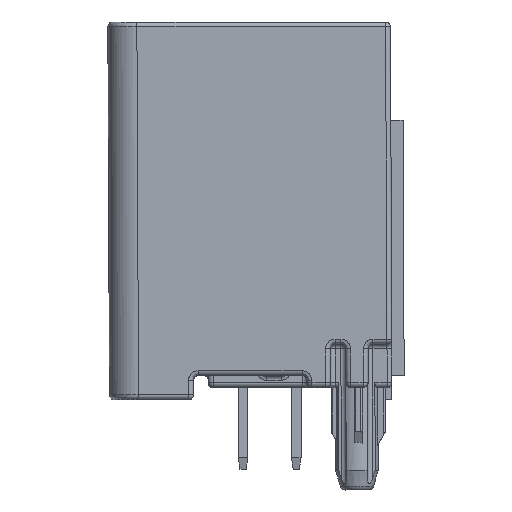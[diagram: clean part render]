
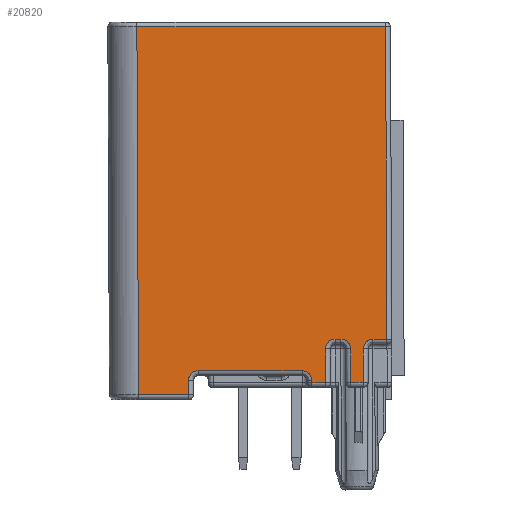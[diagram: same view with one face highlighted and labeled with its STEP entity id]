
A CAD part, left-side view. The second image highlights one B-rep face of the part: STEP entity #20820.
In plain terms, the highlighted planar face has unit normal (-1, 0, -0.004).
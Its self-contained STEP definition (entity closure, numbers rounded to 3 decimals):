
#767=CARTESIAN_POINT('',(-13.256,-4.432,
-3.847));
#768=CARTESIAN_POINT('',(-13.256,-4.433,
-3.803));
#769=CARTESIAN_POINT('',(-13.257,-4.446,
-3.723));
#770=CARTESIAN_POINT('',(-13.257,-4.504,
-3.608));
#771=CARTESIAN_POINT('',(-13.258,-4.593,
-3.519));
#772=CARTESIAN_POINT('',(-13.258,-4.707,
-3.461));
#773=CARTESIAN_POINT('',(-13.258,-4.789,
-3.448));
#774=CARTESIAN_POINT('',(-13.258,-4.832,
-3.448));
#776=CARTESIAN_POINT('',(-13.258,-3.504,
-3.448));
#777=CARTESIAN_POINT('',(-13.258,-3.547,
-3.448));
#778=CARTESIAN_POINT('',(-13.258,-3.63,
-3.461));
#779=CARTESIAN_POINT('',(-13.258,-3.743,
-3.519));
#780=CARTESIAN_POINT('',(-13.257,-3.833,
-3.608));
#781=CARTESIAN_POINT('',(-13.257,-3.891,
-3.723));
#782=CARTESIAN_POINT('',(-13.256,-3.904,
-3.803));
#783=CARTESIAN_POINT('',(-13.256,-3.904,
-3.847));
#785=CARTESIAN_POINT('',(-13.252,-1.906,
-4.748));
#786=CARTESIAN_POINT('',(-13.252,-1.95,
-4.748));
#787=CARTESIAN_POINT('',(-13.252,-2.032,
-4.761));
#788=CARTESIAN_POINT('',(-13.252,-2.145,
-4.819));
#789=CARTESIAN_POINT('',(-13.251,-2.235,
-4.908));
#790=CARTESIAN_POINT('',(-13.251,-2.293,
-5.023));
#791=CARTESIAN_POINT('',(-13.251,-2.306,
-5.103));
#792=CARTESIAN_POINT('',(-13.25,-2.306,
-5.147));
#794=DIRECTION('',(0.004,-0.004,-1.));
#795=VECTOR('',#794,15.2);
#796=CARTESIAN_POINT('',(-13.314,4.92,9.452));
#797=LINE('',#796,#795);
#798=DIRECTION('',(-0.004,0.004,1.));
#799=VECTOR('',#798,12.9);
#800=CARTESIAN_POINT('',(-13.258,-5.409,
-3.448));
#801=LINE('',#800,#799);
#806=DIRECTION('',(0.,1.,0.));
#807=VECTOR('',#806,0.576);
#808=CARTESIAN_POINT('',(-13.258,-5.409,
-3.448));
#809=LINE('',#808,#807);
#7318=DIRECTION('',(0.,1.,0.));
#7319=VECTOR('',#7318,2.073);
#7320=CARTESIAN_POINT('',(-13.248,2.78,
-5.748));
#7321=LINE('',#7320,#7319);
#7341=DIRECTION('',(0.004,0.,-1.));
#7342=VECTOR('',#7341,0.6);
#7343=CARTESIAN_POINT('',(-13.25,2.78,
-5.148));
#7344=LINE('',#7343,#7342);
#7354=CARTESIAN_POINT('',(-13.252,2.38,
-4.748));
#7355=CARTESIAN_POINT('',(-13.252,2.424,
-4.748));
#7356=CARTESIAN_POINT('',(-13.252,2.506,
-4.761));
#7357=CARTESIAN_POINT('',(-13.252,2.62,
-4.819));
#7358=CARTESIAN_POINT('',(-13.251,2.709,
-4.908));
#7359=CARTESIAN_POINT('',(-13.251,2.767,
-5.022));
#7360=CARTESIAN_POINT('',(-13.251,2.78,
-5.104));
#7361=CARTESIAN_POINT('',(-13.25,2.78,
-5.148));
#7368=DIRECTION('',(0.,1.,0.));
#7369=VECTOR('',#7368,4.287);
#7370=CARTESIAN_POINT('',(-13.252,-1.906,
-4.748));
#7371=LINE('',#7370,#7369);
#7390=DIRECTION('',(-0.004,0.003,1.));
#7391=VECTOR('',#7390,0.101);
#7392=CARTESIAN_POINT('',(-13.25,-2.307,
-5.248));
#7393=LINE('',#7392,#7391);
#7937=DIRECTION('',(0.,1.,0.));
#7938=VECTOR('',#7937,0.566);
#7939=CARTESIAN_POINT('',(-13.25,-2.873,
-5.248));
#7940=LINE('',#7939,#7938);
#8128=DIRECTION('',(0.004,0.004,-1.));
#8129=VECTOR('',#8128,1.401);
#8130=CARTESIAN_POINT('',(-13.256,-2.879,
-3.847));
#8131=LINE('',#8130,#8129);
#8142=CARTESIAN_POINT('',(-13.258,-3.279,
-3.448));
#8143=CARTESIAN_POINT('',(-13.258,-3.235,
-3.448));
#8144=CARTESIAN_POINT('',(-13.258,-3.153,
-3.461));
#8145=CARTESIAN_POINT('',(-13.258,-3.039,
-3.519));
#8146=CARTESIAN_POINT('',(-13.257,-2.95,
-3.608));
#8147=CARTESIAN_POINT('',(-13.257,-2.892,
-3.723));
#8148=CARTESIAN_POINT('',(-13.256,-2.879,
-3.803));
#8149=CARTESIAN_POINT('',(-13.256,-2.879,
-3.847));
#8155=DIRECTION('',(0.,1.,0.));
#8156=VECTOR('',#8155,0.225);
#8157=CARTESIAN_POINT('',(-13.258,-3.504,
-3.448));
#8158=LINE('',#8157,#8156);
#8173=DIRECTION('',(-0.004,0.004,1.));
#8174=VECTOR('',#8173,1.401);
#8175=CARTESIAN_POINT('',(-13.25,-3.91,
-5.248));
#8176=LINE('',#8175,#8174);
#8254=DIRECTION('',(0.,1.,0.));
#8255=VECTOR('',#8254,0.516);
#8256=CARTESIAN_POINT('',(-13.25,-4.426,
-5.248));
#8257=LINE('',#8256,#8255);
#8303=DIRECTION('',(0.004,0.004,-1.));
#8304=VECTOR('',#8303,1.401);
#8305=CARTESIAN_POINT('',(-13.256,-4.432,
-3.847));
#8306=LINE('',#8305,#8304);
#14401=DIRECTION('',(0.,-1.,0.));
#14402=VECTOR('',#14401,10.272);
#14403=CARTESIAN_POINT('',(-13.314,4.92,
9.452));
#14404=LINE('',#14403,#14402);
#16440=CARTESIAN_POINT('',(-13.258,-5.409,
-3.448));
#16441=CARTESIAN_POINT('',(-13.258,-4.832,
-3.448));
#16442=VERTEX_POINT('',#16440);
#16443=VERTEX_POINT('',#16441);
#16444=CARTESIAN_POINT('',(-13.314,-5.352,
9.452));
#16445=VERTEX_POINT('',#16444);
#16446=CARTESIAN_POINT('',(-13.314,4.92,
9.452));
#16447=VERTEX_POINT('',#16446);
#16448=CARTESIAN_POINT('',(-13.248,4.853,
-5.748));
#16449=VERTEX_POINT('',#16448);
#16450=CARTESIAN_POINT('',(-13.248,2.78,
-5.748));
#16451=VERTEX_POINT('',#16450);
#16452=CARTESIAN_POINT('',(-13.25,2.78,
-5.148));
#16453=VERTEX_POINT('',#16452);
#16454=VERTEX_POINT('',#7354);
#16455=CARTESIAN_POINT('',(-13.252,-1.906,
-4.748));
#16456=VERTEX_POINT('',#16455);
#16457=VERTEX_POINT('',#792);
#16458=CARTESIAN_POINT('',(-13.25,-2.307,
-5.248));
#16459=VERTEX_POINT('',#16458);
#16460=CARTESIAN_POINT('',(-13.25,-2.873,
-5.248));
#16461=VERTEX_POINT('',#16460);
#16462=CARTESIAN_POINT('',(-13.256,-2.879,
-3.847));
#16463=VERTEX_POINT('',#16462);
#16464=VERTEX_POINT('',#8142);
#16465=CARTESIAN_POINT('',(-13.258,-3.504,
-3.448));
#16466=VERTEX_POINT('',#16465);
#16467=VERTEX_POINT('',#783);
#16468=CARTESIAN_POINT('',(-13.25,-3.91,
-5.248));
#16469=VERTEX_POINT('',#16468);
#16470=CARTESIAN_POINT('',(-13.25,-4.426,
-5.248));
#16471=VERTEX_POINT('',#16470);
#16472=CARTESIAN_POINT('',(-13.256,-4.432,
-3.847));
#16473=VERTEX_POINT('',#16472);
#20776=CARTESIAN_POINT('',(-13.315,6.12,9.653));
#20777=DIRECTION('',(1.,0.,0.004));
#20778=DIRECTION('',(0.004,0.,-1.));
#20779=AXIS2_PLACEMENT_3D('',#20776,#20777,#20778);
#20780=PLANE('',#20779);
#20782=ORIENTED_EDGE('',*,*,#20781,.T.);
#20784=ORIENTED_EDGE('',*,*,#20783,.F.);
#20786=ORIENTED_EDGE('',*,*,#20785,.T.);
#20788=ORIENTED_EDGE('',*,*,#20787,.T.);
#20790=ORIENTED_EDGE('',*,*,#20789,.T.);
#20792=ORIENTED_EDGE('',*,*,#20791,.F.);
#20794=ORIENTED_EDGE('',*,*,#20793,.T.);
#20796=ORIENTED_EDGE('',*,*,#20795,.T.);
#20798=ORIENTED_EDGE('',*,*,#20797,.T.);
#20800=ORIENTED_EDGE('',*,*,#20799,.T.);
#20802=ORIENTED_EDGE('',*,*,#20801,.T.);
#20804=ORIENTED_EDGE('',*,*,#20803,.F.);
#20806=ORIENTED_EDGE('',*,*,#20805,.T.);
#20808=ORIENTED_EDGE('',*,*,#20807,.T.);
#20810=ORIENTED_EDGE('',*,*,#20809,.T.);
#20812=ORIENTED_EDGE('',*,*,#20811,.T.);
#20813=ORIENTED_EDGE('',*,*,#20766,.F.);
#20815=ORIENTED_EDGE('',*,*,#20814,.T.);
#20817=ORIENTED_EDGE('',*,*,#20816,.F.);
#20818=EDGE_LOOP('',(#20782,#20784,#20786,#20788,#20790,#20792,#20794,#20796,
#20798,#20800,#20802,#20804,#20806,#20808,#20810,#20812,#20813,#20815,#20817));
#20819=FACE_OUTER_BOUND('',#20818,.F.);
#20820=ADVANCED_FACE('',(#20819),#20780,.F.);
#775=B_SPLINE_CURVE_WITH_KNOTS('',3,(#767,#768,#769,#770,#771,#772,#773,#774),
.UNSPECIFIED.,.F.,.F.,(4,1,1,1,1,4),(0.,0.2,0.4,0.6,0.8,1.),
.UNSPECIFIED.);
#784=B_SPLINE_CURVE_WITH_KNOTS('',3,(#776,#777,#778,#779,#780,#781,#782,#783),
.UNSPECIFIED.,.F.,.F.,(4,1,1,1,1,4),(0.,0.2,0.4,0.6,0.8,1.),
.UNSPECIFIED.);
#793=B_SPLINE_CURVE_WITH_KNOTS('',3,(#785,#786,#787,#788,#789,#790,#791,#792),
.UNSPECIFIED.,.F.,.F.,(4,1,1,1,1,4),(0.,0.2,0.4,0.6,0.8,1.),
.UNSPECIFIED.);
#7362=B_SPLINE_CURVE_WITH_KNOTS('',3,(#7354,#7355,#7356,#7357,#7358,#7359,#7360,
#7361),.UNSPECIFIED.,.F.,.F.,(4,1,1,1,1,4),(0.,0.2,0.4,0.6,0.8,1.),
.UNSPECIFIED.);
#8150=B_SPLINE_CURVE_WITH_KNOTS('',3,(#8142,#8143,#8144,#8145,#8146,#8147,#8148,
#8149),.UNSPECIFIED.,.F.,.F.,(4,1,1,1,1,4),(0.,0.2,0.4,0.6,0.8,1.),
.UNSPECIFIED.);
#20766=EDGE_CURVE('',#16447,#16449,#797,.T.);
#20781=EDGE_CURVE('',#16442,#16443,#809,.T.);
#20783=EDGE_CURVE('',#16473,#16443,#775,.T.);
#20785=EDGE_CURVE('',#16473,#16471,#8306,.T.);
#20787=EDGE_CURVE('',#16471,#16469,#8257,.T.);
#20789=EDGE_CURVE('',#16469,#16467,#8176,.T.);
#20791=EDGE_CURVE('',#16466,#16467,#784,.T.);
#20793=EDGE_CURVE('',#16466,#16464,#8158,.T.);
#20795=EDGE_CURVE('',#16464,#16463,#8150,.T.);
#20797=EDGE_CURVE('',#16463,#16461,#8131,.T.);
#20799=EDGE_CURVE('',#16461,#16459,#7940,.T.);
#20801=EDGE_CURVE('',#16459,#16457,#7393,.T.);
#20803=EDGE_CURVE('',#16456,#16457,#793,.T.);
#20805=EDGE_CURVE('',#16456,#16454,#7371,.T.);
#20807=EDGE_CURVE('',#16454,#16453,#7362,.T.);
#20809=EDGE_CURVE('',#16453,#16451,#7344,.T.);
#20811=EDGE_CURVE('',#16451,#16449,#7321,.T.);
#20814=EDGE_CURVE('',#16447,#16445,#14404,.T.);
#20816=EDGE_CURVE('',#16442,#16445,#801,.T.);
